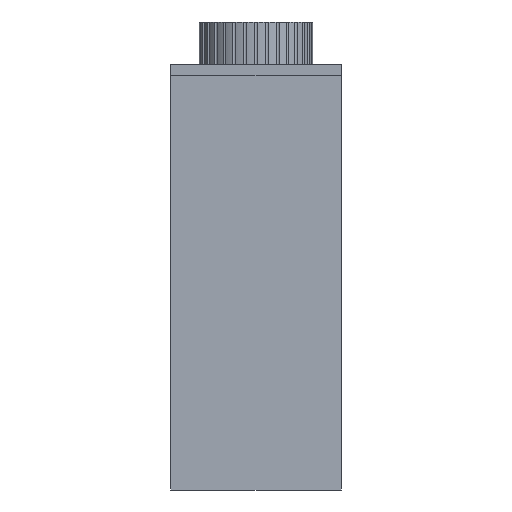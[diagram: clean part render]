
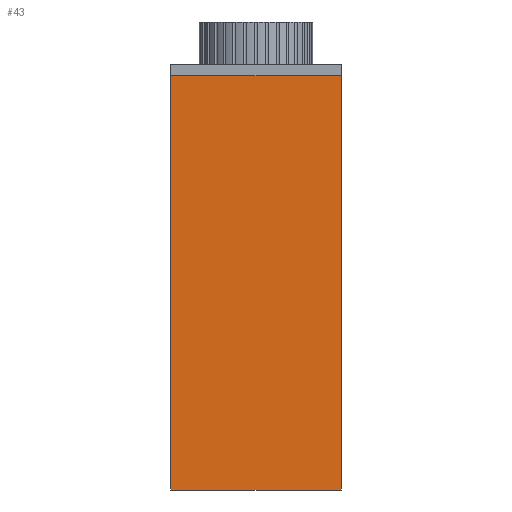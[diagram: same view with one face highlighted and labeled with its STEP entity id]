
A CAD part, left-side view. The second image highlights one B-rep face of the part: STEP entity #43.
In plain terms, the highlighted planar face has unit normal (-1, 0, 0).
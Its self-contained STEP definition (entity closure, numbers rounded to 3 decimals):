
#43 = ADVANCED_FACE('',(#44),#58,.F.);
#44 = FACE_BOUND('',#45,.F.);
#45 = EDGE_LOOP('',(#46,#81,#109,#137));
#46 = ORIENTED_EDGE('',*,*,#47,.F.);
#47 = EDGE_CURVE('',#48,#50,#52,.T.);
#48 = VERTEX_POINT('',#49);
#49 = CARTESIAN_POINT('',(-30.,-30.,0.));
#50 = VERTEX_POINT('',#51);
#51 = CARTESIAN_POINT('',(-30.,-30.,146.));
#52 = SURFACE_CURVE('',#53,(#57,#69),.PCURVE_S1.);
#53 = LINE('',#54,#55);
#54 = CARTESIAN_POINT('',(-30.,-30.,0.));
#55 = VECTOR('',#56,1.);
#56 = DIRECTION('',(0.,0.,1.));
#57 = PCURVE('',#58,#63);
#58 = PLANE('',#59);
#59 = AXIS2_PLACEMENT_3D('',#60,#61,#62);
#60 = CARTESIAN_POINT('',(-30.,-30.,0.));
#61 = DIRECTION('',(1.,0.,0.));
#62 = DIRECTION('',(0.,0.,1.));
#63 = DEFINITIONAL_REPRESENTATION('',(#64),#68);
#64 = LINE('',#65,#66);
#65 = CARTESIAN_POINT('',(0.,0.));
#66 = VECTOR('',#67,1.);
#67 = DIRECTION('',(1.,0.));
#68 = ( GEOMETRIC_REPRESENTATION_CONTEXT(2) 
PARAMETRIC_REPRESENTATION_CONTEXT() REPRESENTATION_CONTEXT('2D SPACE',''
  ) );
#69 = PCURVE('',#70,#75);
#70 = PLANE('',#71);
#71 = AXIS2_PLACEMENT_3D('',#72,#73,#74);
#72 = CARTESIAN_POINT('',(-30.,-30.,0.));
#73 = DIRECTION('',(0.,1.,0.));
#74 = DIRECTION('',(0.,-0.,1.));
#75 = DEFINITIONAL_REPRESENTATION('',(#76),#80);
#76 = LINE('',#77,#78);
#77 = CARTESIAN_POINT('',(0.,0.));
#78 = VECTOR('',#79,1.);
#79 = DIRECTION('',(1.,0.));
#80 = ( GEOMETRIC_REPRESENTATION_CONTEXT(2) 
PARAMETRIC_REPRESENTATION_CONTEXT() REPRESENTATION_CONTEXT('2D SPACE',''
  ) );
#81 = ORIENTED_EDGE('',*,*,#82,.T.);
#82 = EDGE_CURVE('',#48,#83,#85,.T.);
#83 = VERTEX_POINT('',#84);
#84 = CARTESIAN_POINT('',(-30.,30.,0.));
#85 = SURFACE_CURVE('',#86,(#90,#97),.PCURVE_S1.);
#86 = LINE('',#87,#88);
#87 = CARTESIAN_POINT('',(-30.,-30.,0.));
#88 = VECTOR('',#89,1.);
#89 = DIRECTION('',(0.,1.,0.));
#90 = PCURVE('',#58,#91);
#91 = DEFINITIONAL_REPRESENTATION('',(#92),#96);
#92 = LINE('',#93,#94);
#93 = CARTESIAN_POINT('',(0.,0.));
#94 = VECTOR('',#95,1.);
#95 = DIRECTION('',(0.,-1.));
#96 = ( GEOMETRIC_REPRESENTATION_CONTEXT(2) 
PARAMETRIC_REPRESENTATION_CONTEXT() REPRESENTATION_CONTEXT('2D SPACE',''
  ) );
#97 = PCURVE('',#98,#103);
#98 = PLANE('',#99);
#99 = AXIS2_PLACEMENT_3D('',#100,#101,#102);
#100 = CARTESIAN_POINT('',(-30.,-30.,0.));
#101 = DIRECTION('',(0.,0.,1.));
#102 = DIRECTION('',(1.,0.,-0.));
#103 = DEFINITIONAL_REPRESENTATION('',(#104),#108);
#104 = LINE('',#105,#106);
#105 = CARTESIAN_POINT('',(0.,0.));
#106 = VECTOR('',#107,1.);
#107 = DIRECTION('',(0.,1.));
#108 = ( GEOMETRIC_REPRESENTATION_CONTEXT(2) 
PARAMETRIC_REPRESENTATION_CONTEXT() REPRESENTATION_CONTEXT('2D SPACE',''
  ) );
#109 = ORIENTED_EDGE('',*,*,#110,.T.);
#110 = EDGE_CURVE('',#83,#111,#113,.T.);
#111 = VERTEX_POINT('',#112);
#112 = CARTESIAN_POINT('',(-30.,30.,146.));
#113 = SURFACE_CURVE('',#114,(#118,#125),.PCURVE_S1.);
#114 = LINE('',#115,#116);
#115 = CARTESIAN_POINT('',(-30.,30.,0.));
#116 = VECTOR('',#117,1.);
#117 = DIRECTION('',(0.,0.,1.));
#118 = PCURVE('',#58,#119);
#119 = DEFINITIONAL_REPRESENTATION('',(#120),#124);
#120 = LINE('',#121,#122);
#121 = CARTESIAN_POINT('',(0.,-60.));
#122 = VECTOR('',#123,1.);
#123 = DIRECTION('',(1.,0.));
#124 = ( GEOMETRIC_REPRESENTATION_CONTEXT(2) 
PARAMETRIC_REPRESENTATION_CONTEXT() REPRESENTATION_CONTEXT('2D SPACE',''
  ) );
#125 = PCURVE('',#126,#131);
#126 = PLANE('',#127);
#127 = AXIS2_PLACEMENT_3D('',#128,#129,#130);
#128 = CARTESIAN_POINT('',(-30.,30.,0.));
#129 = DIRECTION('',(0.,1.,0.));
#130 = DIRECTION('',(0.,-0.,1.));
#131 = DEFINITIONAL_REPRESENTATION('',(#132),#136);
#132 = LINE('',#133,#134);
#133 = CARTESIAN_POINT('',(0.,0.));
#134 = VECTOR('',#135,1.);
#135 = DIRECTION('',(1.,0.));
#136 = ( GEOMETRIC_REPRESENTATION_CONTEXT(2) 
PARAMETRIC_REPRESENTATION_CONTEXT() REPRESENTATION_CONTEXT('2D SPACE',''
  ) );
#137 = ORIENTED_EDGE('',*,*,#138,.F.);
#138 = EDGE_CURVE('',#50,#111,#139,.T.);
#139 = SURFACE_CURVE('',#140,(#144,#151),.PCURVE_S1.);
#140 = LINE('',#141,#142);
#141 = CARTESIAN_POINT('',(-30.,-30.,146.));
#142 = VECTOR('',#143,1.);
#143 = DIRECTION('',(0.,1.,0.));
#144 = PCURVE('',#58,#145);
#145 = DEFINITIONAL_REPRESENTATION('',(#146),#150);
#146 = LINE('',#147,#148);
#147 = CARTESIAN_POINT('',(146.,0.));
#148 = VECTOR('',#149,1.);
#149 = DIRECTION('',(0.,-1.));
#150 = ( GEOMETRIC_REPRESENTATION_CONTEXT(2) 
PARAMETRIC_REPRESENTATION_CONTEXT() REPRESENTATION_CONTEXT('2D SPACE',''
  ) );
#151 = PCURVE('',#152,#157);
#152 = PLANE('',#153);
#153 = AXIS2_PLACEMENT_3D('',#154,#155,#156);
#154 = CARTESIAN_POINT('',(-30.,-30.,146.));
#155 = DIRECTION('',(0.,0.,1.));
#156 = DIRECTION('',(1.,0.,-0.));
#157 = DEFINITIONAL_REPRESENTATION('',(#158),#162);
#158 = LINE('',#159,#160);
#159 = CARTESIAN_POINT('',(0.,0.));
#160 = VECTOR('',#161,1.);
#161 = DIRECTION('',(0.,1.));
#162 = ( GEOMETRIC_REPRESENTATION_CONTEXT(2) 
PARAMETRIC_REPRESENTATION_CONTEXT() REPRESENTATION_CONTEXT('2D SPACE',''
  ) );
